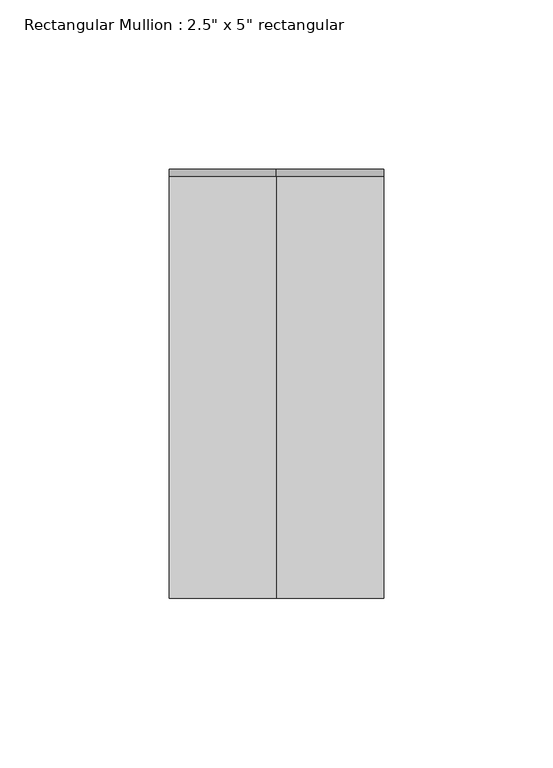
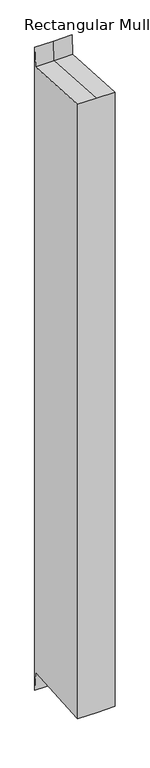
"""IFC4 building model written with IfcOpenShell, lengths in millimetres: member geometry."""

from ifc_helpers import new_model, si_unit, origin, place, context, project, spatial, faceted_brep, source, transform, mapped, element, save


def member_0c249660(model_context):
    return source(origin(), model_context, "Body", "Brep", [
        faceted_brep([(-31.75, 63.5, 29.7655912), (0.0, 63.5, 29.7655912), (31.75, 63.5, 29.7655912), (31.75, 63.5, -1127.5980916), (0.0, 63.5, -1127.5980916), (-31.75, 63.5, -1127.5980916), (-31.75, -63.5, 3.9106228), (-31.75, 61.3936207, -3.902992), (-31.75, 61.3936207, -1093.9295083), (-31.75, -63.5, -1101.7431231), (31.75, -63.5, 3.9106228), (0.0, -63.5, 3.9106228), (0.0, -63.5, -1101.7431231), (31.75, -63.5, -1101.7431231), (31.75, 61.3936207, -3.902992), (31.75, 61.3936207, -1093.9295083), (0.0, 61.3936207, -3.902992), (0.0, 61.3936207, -1093.9295083)], [[[0, 1, 2, 3, 4, 5]], [[6, 7, 0, 5, 8, 9]], [[10, 11, 6, 9, 12, 13]], [[2, 14, 10, 13, 15, 3]], [[2, 1, 16, 14]], [[1, 0, 7, 16]], [[7, 6, 11, 16]], [[11, 10, 14, 16]], [[3, 15, 17, 4]], [[15, 13, 12, 17]], [[12, 9, 8, 17]], [[8, 5, 4, 17]]]),
    ])


if __name__ == "__main__":
    model = new_model("IFC4")
    model_context = context("Model", 3, world=origin())
    ifc_project = project(units=[si_unit("LENGTHUNIT", "METRE", prefix="MILLI")], contexts=[model_context])
    site = spatial("IfcSite", under=ifc_project)
    building = spatial("IfcBuilding", under=site)
    placement = place(None, origin())
    member_shape = member_0c249660(model_context)
    element("IfcMember", 1, ObjectType="Rectangular Mullion : 2.5\" x 5\" rectangular", at=placement, inside=building, context=model_context, shape_type="MappedRepresentation", body=[
        mapped(member_shape, transform((0.0, 0.0, 0.0), x_axis=(1.0, 0.0, 0.0), y_axis=(0.0, 1.0, 0.0), z_axis=(0.0, 0.0, 1.0))),
    ])
    save(model, "model.ifc")
